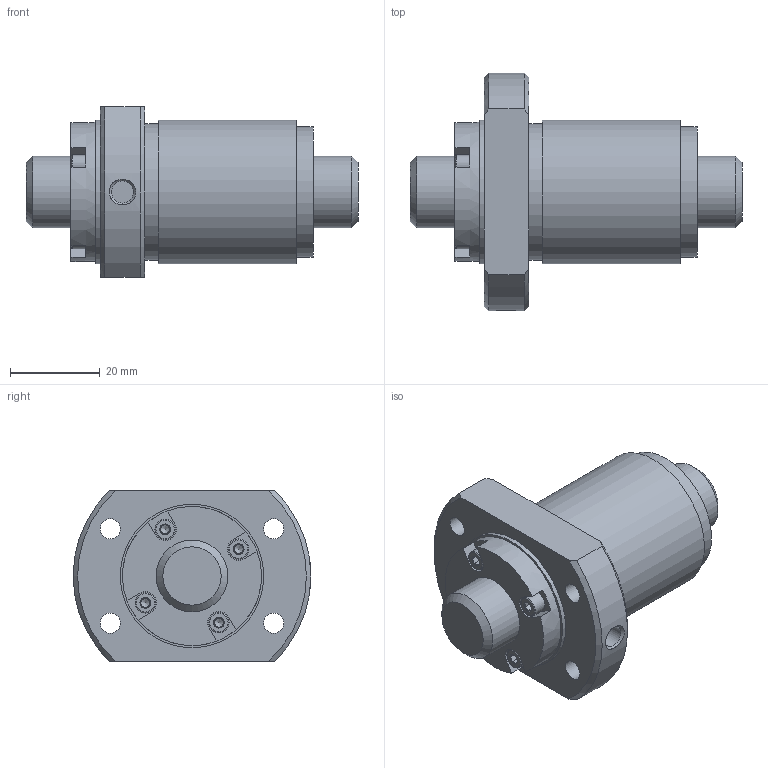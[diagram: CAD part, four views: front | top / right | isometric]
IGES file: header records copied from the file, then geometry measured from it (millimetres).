
Start section: Data from Parasolid IGES Translator 26.0.171, Copyright(c) 2006 Siemens PLM Software. All Rights Reserved.
Global section: file name: BLK1616-2.8G1+74LC3_N0_1300.igs; native system: By Siemens PLM Incorporated; preprocessor: XPlus GENERIC/IGES 26.0.171; author: Noname; organization: Noname; date: 20250116.070428; units: millimetre
Bounding box: 74 x 53 x 38 mm (x, y, z)
Surface area: 17061.9 mm2 (no closed solid volume)
Topology: 0 solids, 0 shells, 123 faces, 578 edges, 528 vertices
Faces by surface type: extrusion 76, revolution 47
